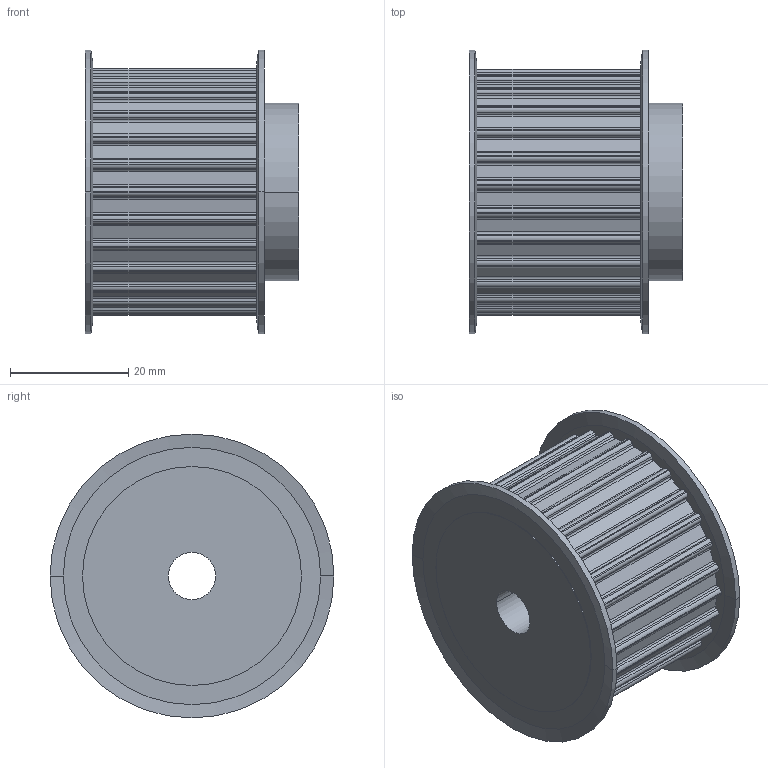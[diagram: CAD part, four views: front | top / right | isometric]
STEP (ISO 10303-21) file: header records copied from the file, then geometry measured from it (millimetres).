
FILE_DESCRIPTION( ( '' ), '1' );
FILE_NAME( 'C:/Users/Stangenbergd/Documents/CAD_Step/1/16642700.stp', '2021-10-19T09:38:10', ( '' ), ( '' ), ' ', ' ', ' ' );
FILE_SCHEMA( ( 'CONFIG_CONTROL_DESIGN' ) );
Length unit declared in the file: millimetre
Products named in the file (1): 1
Bounding box: 36.17 x 48 x 48 mm (x, y, z)
Volume: 41674.5 mm3; surface area: 10732.9 mm2
Topology: 1 solids, 1 shells, 244 faces, 703 edges, 466 vertices
Faces by surface type: cylinder 148, plane 88, cone 8
Entity records: 8175 total; most frequent: DIRECTION 1497, CARTESIAN_POINT 1414, ORIENTED_EDGE 1406, EDGE_CURVE 703, AXIS2_PLACEMENT_3D 549, VERTEX_POINT 466, LINE 399, VECTOR 399
